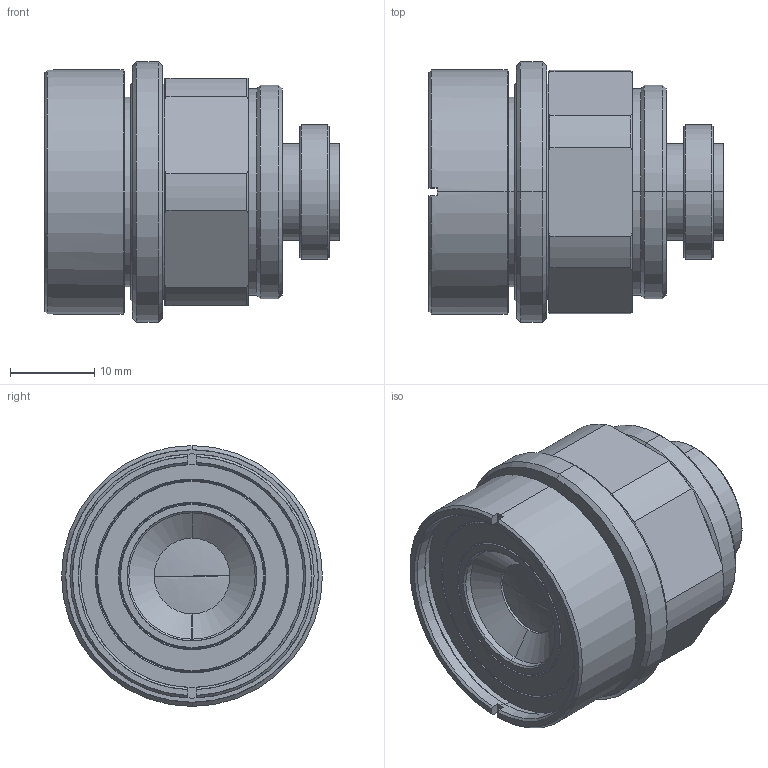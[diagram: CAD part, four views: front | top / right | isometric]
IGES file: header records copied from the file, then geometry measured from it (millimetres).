
Start section: SolidWorks IGES file using analytic representation for surfaces
Global section: file name: C:\Users\tsuji_vst\Documents\【作業フォルダ】\_3D\00 VST\MCA\確認待ち\VS-MCA10\VS-MCA10.IGS; native system: SolidWorks 2017; preprocessor: SolidWorks 2017; author: tsuji_vst; date: 171011.143013; units: millimetre
Bounding box: 34.99 x 31 x 31 mm (x, y, z)
Surface area: 6257 mm2 (no closed solid volume)
Topology: 0 solids, 0 shells, 127 faces, 1680 edges, 1679 vertices
Faces by surface type: revolution 96, bspline 31
